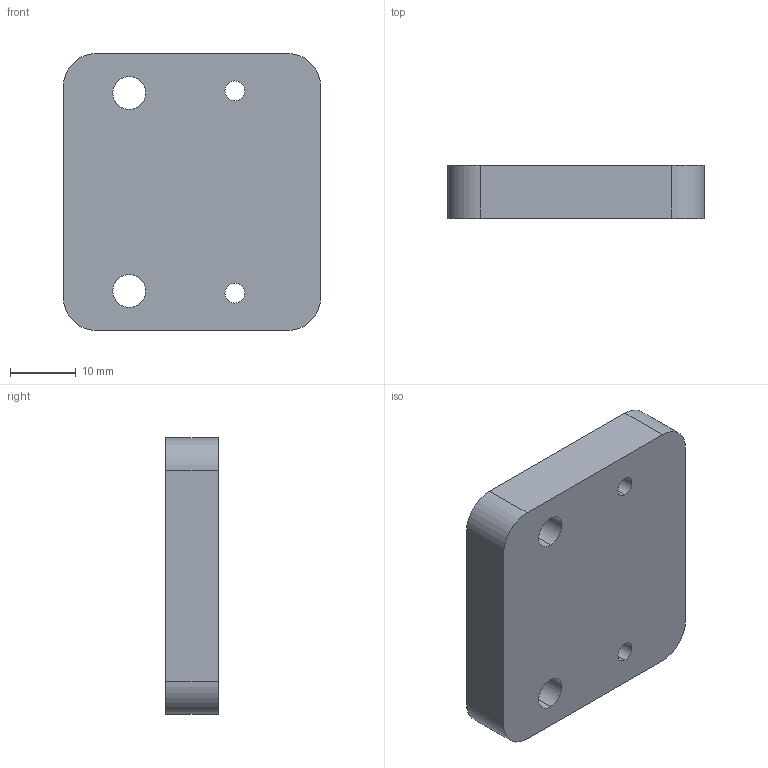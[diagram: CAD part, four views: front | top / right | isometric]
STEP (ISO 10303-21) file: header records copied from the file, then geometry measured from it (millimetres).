
FILE_DESCRIPTION((''),'2;1');
FILE_NAME('0000187301','2024-04-03T11:39:27',('Wyndorps'),(''),'CREO PARAMETRIC BY PTC INC, 2022484','CREO PARAMETRIC BY PTC INC, 2022484','');
FILE_SCHEMA(('CONFIG_CONTROL_DESIGN'));
Length unit declared in the file: millimetre
Products named in the file (1): 0000187301
Bounding box: 39 x 8 x 42 mm (x, y, z)
Volume: 12306.4 mm3; surface area: 4947.7 mm2
Topology: 1 solids, 1 shells, 173 faces, 489 edges, 326 vertices
Faces by surface type: plane 161, cylinder 12
Entity records: 5561 total; most frequent: CARTESIAN_POINT 988, ORIENTED_EDGE 978, DIRECTION 859, EDGE_CURVE 489, VECTOR 465, LINE 465, VERTEX_POINT 326, AXIS2_PLACEMENT_3D 197
